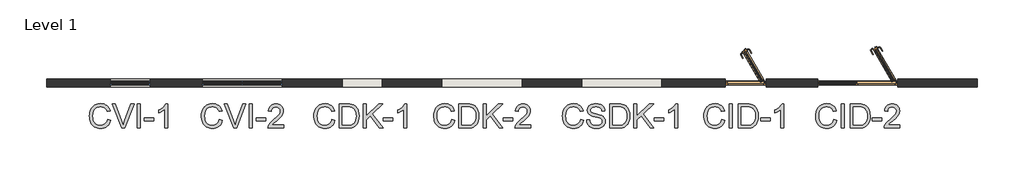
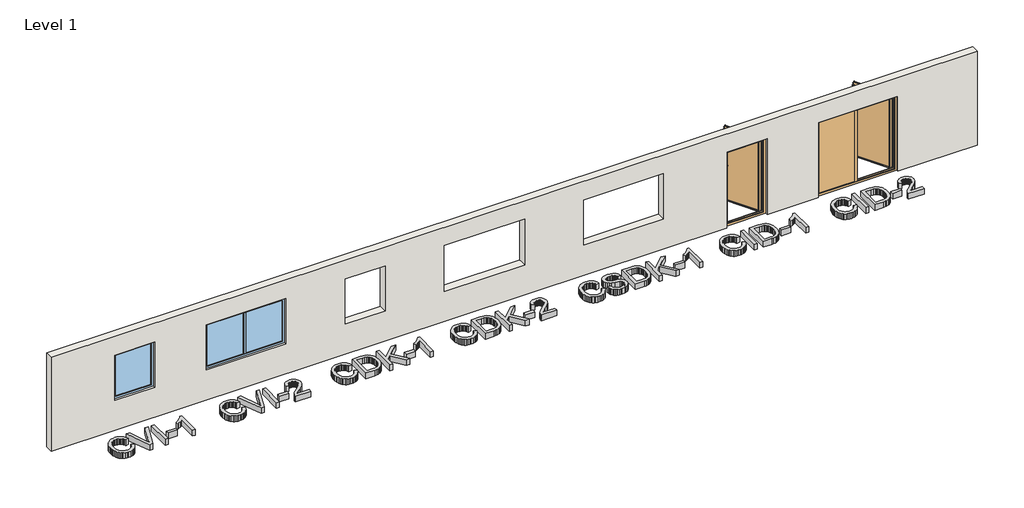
# One storey, incomplete: 7 proxies, 2 doors, 2 windows, 1 wall.
"""IFC4 building model written with IfcOpenShell, lengths in millimetres."""

from ifc_helpers import new_model, si_unit, frame, origin, origin_with_axes, place, context, project, spatial, polyline, outline, extrude, transform, mapped, element, save
from components import door_f65b9b94, door_63323bb3, window_ad6b3518, window_78f67e3e

model = new_model("IFC4")

# Units and contexts
model_context = context("Model", 3, world=origin())
ifc_project = project(units=[si_unit("LENGTHUNIT", "METRE", prefix="MILLI")], contexts=[model_context])

# Site, building, storey
site = spatial("IfcSite", under=ifc_project)
building = spatial("IfcBuilding", under=site)
storey = spatial("IfcBuildingStorey", under=building, Name="Level 1", Elevation=0.0)

# Proxies
placement = place(None, origin())
element("IfcBuildingElementProxy", 1, Name="600mm Arial", ObjectType="600mm Arial", at=placement, inside=storey, context=model_context, shape_type="SweptSolid", body=[
    extrude(outline(polyline([(-10443.6367102, -1969.3341374), (-10368.2944775, -1988.7583067), (-10383.2028954, -2035.6126773), (-10403.0593261, -2076.5533449), (-10427.8637696, -2111.5803093), (-10457.616226, -2140.6935707), (-10491.6453105, -2163.5804293), (-10529.2796386, -2179.9281855), (-10570.5192103, -2189.7368392), (-10615.3640255, -2193.0063904), (-10661.3078882, -2190.532384), (-10702.7543935, -2183.1103648), (-10739.7035413, -2170.7403327), (-10772.1553318, -2153.4222877), (-10800.5558219, -2131.4137474), (-10825.3510684, -2104.972229), (-10846.5410713, -2074.0977325), (-10864.1258306, -2038.7902581), (-10877.935201, -2000.5765158), (-10887.799037, -1960.9832161), (-10893.7173386, -1920.0103589), (-10895.6901058, -1877.6579442), (-10893.4598212, -1832.2153207), (-10886.7689674, -1789.7709355), (-10875.6175445, -1750.3247886), (-10860.0055523, -1713.8768799), (-10840.2824788, -1681.0296163), (-10816.797812, -1652.3854044), (-10789.5515517, -1627.9442444), (-10758.543698, -1607.7061361), (-10724.8273132, -1591.8366265), (-10689.4554593, -1580.5012626), (-10652.4281365, -1573.7000442), (-10613.7453447, -1571.4329714), (-10570.6525675, -1574.3668303), (-10531.1374427, -1583.168407), (-10495.1999703, -1597.8377016), (-10462.8401503, -1618.374714), (-10434.5914116, -1644.2368182), (-10410.9871831, -1674.8813884), (-10392.0274648, -1710.3084246), (-10377.7122566, -1750.5179266), (-10453.0544892, -1768.470568), (-10464.9186836, -1738.8422718), (-10479.1741109, -1713.527392), (-10495.8207712, -1692.5259286), (-10514.8586644, -1675.8378816), (-10536.3981552, -1663.1229602), (-10560.5496082, -1654.0408734), (-10587.3130234, -1648.5916213), (-10616.6884007, -1646.775204), (-10650.487559, -1648.7893579), (-10681.3988436, -1654.8318197), (-10709.4222546, -1664.9025893), (-10734.5577919, -1679.0016668), (-10756.4881574, -1696.4944556), (-10774.8960527, -1716.7463595), (-10789.7814779, -1739.7573783), (-10801.1444331, -1765.527512), (-10815.5470132, -1820.6730231), (-10820.3478732, -1877.5107914), (-10814.6640964, -1947.1140649), (-10807.5593754, -1978.3840344), (-10797.6127659, -2007.2995593), (-10784.6633197, -2033.2858237), (-10768.5500883, -2055.7680121), (-10749.2730717, -2074.7461246), (-10726.83227, -2090.220161), (-10702.3175336, -2102.2269096), (-10676.8187128, -2110.8031586), (-10650.3358077, -2115.948908), (-10622.8688182, -2117.6641578), (-10590.1135251, -2115.3281071), (-10559.9793911, -2108.3199551), (-10532.4664164, -2096.6397018), (-10507.5746009, -2080.2873471), (-10485.8925558, -2059.3364675), (-10468.0088923, -2033.8606393), (-10453.9236104, -2003.8598626), (-10443.6367102, -1969.3341374)])), origin_with_axes(), (0.0, 0.0, 1.0), 150.0),
    extrude(outline(polyline([(-10086.7911748, -2183.5886114), (-10326.5030829, -1580.8507505), (-10245.8633495, -1580.8507505), (-10085.3196469, -2015.0986576), (-10052.7988785, -2112.9552683), (-10020.7195685, -2015.0986576), (-9859.7344074, -1580.8507505), (-9779.2418269, -1580.8507505), (-10009.0944975, -2183.5886114), (-10086.7911748, -2183.5886114)])), origin_with_axes(), (0.0, 0.0, 1.0), 150.0),
    extrude(outline(polyline([(-9699.6321631, -2183.5886114), (-9699.6321631, -1580.8507505), (-9624.2899305, -1580.8507505), (-9624.2899305, -2183.5886114), (-9699.6321631, -2183.5886114)])), origin_with_axes(), (0.0, 0.0, 1.0), 150.0),
    extrude(outline(polyline([(-9520.6943607, -2004.6508089), (-9520.6943607, -1929.3085763), (-9285.2498837, -1929.3085763), (-9285.2498837, -2004.6508089), (-9520.6943607, -2004.6508089)])), origin_with_axes(), (0.0, 0.0, 1.0), 150.0),
    extrude(outline(polyline([(-8936.7920579, -2183.5886114), (-9012.1342905, -2183.5886114), (-9012.1342905, -1713.8768799), (-9043.5882011, -1739.3159199), (-9083.5033976, -1764.7181716), (-9125.4051568, -1786.9198501), (-9162.8187557, -1802.7571699), (-9162.8187557, -1731.5352157), (-9103.6449368, -1699.3455411), (-9052.3805808, -1661.0490254), (-9011.9687436, -1620.3244885), (-8985.3524813, -1580.8507505), (-8936.7920579, -1580.8507505), (-8936.7920579, -2183.5886114)])), origin_with_axes(), (0.0, 0.0, 1.0), 150.0),
])
element("IfcBuildingElementProxy", 2, Name="600mm Arial", ObjectType="600mm Arial", at=placement, inside=storey, context=model_context, shape_type="SweptSolid", body=[
    extrude(outline(polyline([(-7643.6367102, -1969.3341374), (-7568.2944775, -1988.7583067), (-7583.2028954, -2035.6126773), (-7603.0593261, -2076.5533449), (-7627.8637696, -2111.5803093), (-7657.616226, -2140.6935707), (-7691.6453105, -2163.5804293), (-7729.2796386, -2179.9281855), (-7770.5192103, -2189.7368392), (-7815.3640255, -2193.0063904), (-7861.3078882, -2190.532384), (-7902.7543935, -2183.1103648), (-7939.7035413, -2170.7403327), (-7972.1553318, -2153.4222877), (-8000.5558219, -2131.4137474), (-8025.3510684, -2104.972229), (-8046.5410713, -2074.0977325), (-8064.1258306, -2038.7902581), (-8077.935201, -2000.5765158), (-8087.799037, -1960.9832161), (-8093.7173386, -1920.0103589), (-8095.6901058, -1877.6579442), (-8093.4598212, -1832.2153207), (-8086.7689674, -1789.7709355), (-8075.6175445, -1750.3247886), (-8060.0055523, -1713.8768799), (-8040.2824788, -1681.0296163), (-8016.797812, -1652.3854044), (-7989.5515517, -1627.9442444), (-7958.543698, -1607.7061361), (-7924.8273132, -1591.8366265), (-7889.4554593, -1580.5012626), (-7852.4281365, -1573.7000442), (-7813.7453447, -1571.4329714), (-7770.6525675, -1574.3668303), (-7731.1374427, -1583.168407), (-7695.1999703, -1597.8377016), (-7662.8401503, -1618.374714), (-7634.5914116, -1644.2368182), (-7610.9871831, -1674.8813884), (-7592.0274648, -1710.3084246), (-7577.7122566, -1750.5179266), (-7653.0544892, -1768.470568), (-7664.9186836, -1738.8422718), (-7679.1741109, -1713.527392), (-7695.8207712, -1692.5259286), (-7714.8586644, -1675.8378816), (-7736.3981552, -1663.1229602), (-7760.5496082, -1654.0408734), (-7787.3130234, -1648.5916213), (-7816.6884007, -1646.775204), (-7850.487559, -1648.7893579), (-7881.3988436, -1654.8318197), (-7909.4222546, -1664.9025893), (-7934.5577919, -1679.0016668), (-7956.4881574, -1696.4944556), (-7974.8960527, -1716.7463595), (-7989.7814779, -1739.7573783), (-8001.1444331, -1765.527512), (-8015.5470132, -1820.6730231), (-8020.3478732, -1877.5107914), (-8014.6640964, -1947.1140649), (-8007.5593754, -1978.3840344), (-7997.6127659, -2007.2995593), (-7984.6633197, -2033.2858237), (-7968.5500883, -2055.7680121), (-7949.2730717, -2074.7461246), (-7926.83227, -2090.220161), (-7902.3175336, -2102.2269096), (-7876.8187128, -2110.8031586), (-7850.3358077, -2115.948908), (-7822.8688182, -2117.6641578), (-7790.1135251, -2115.3281071), (-7759.9793911, -2108.3199551), (-7732.4664164, -2096.6397018), (-7707.5746009, -2080.2873471), (-7685.8925558, -2059.3364675), (-7668.0088923, -2033.8606393), (-7653.9236104, -2003.8598626), (-7643.6367102, -1969.3341374)])), origin_with_axes(), (0.0, 0.0, 1.0), 150.0),
    extrude(outline(polyline([(-7286.7911748, -2183.5886114), (-7526.5030829, -1580.8507505), (-7445.8633495, -1580.8507505), (-7285.3196469, -2015.0986576), (-7252.7988785, -2112.9552683), (-7220.7195685, -2015.0986576), (-7059.7344074, -1580.8507505), (-6979.2418269, -1580.8507505), (-7209.0944975, -2183.5886114), (-7286.7911748, -2183.5886114)])), origin_with_axes(), (0.0, 0.0, 1.0), 150.0),
    extrude(outline(polyline([(-6899.6321631, -2183.5886114), (-6899.6321631, -1580.8507505), (-6824.2899305, -1580.8507505), (-6824.2899305, -2183.5886114), (-6899.6321631, -2183.5886114)])), origin_with_axes(), (0.0, 0.0, 1.0), 150.0),
    extrude(outline(polyline([(-6720.6943607, -2004.6508089), (-6720.6943607, -1929.3085763), (-6485.2498837, -1929.3085763), (-6485.2498837, -2004.6508089), (-6720.6943607, -2004.6508089)])), origin_with_axes(), (0.0, 0.0, 1.0), 150.0),
    extrude(outline(polyline([(-6033.1964881, -2108.2463787), (-6033.1964881, -2183.5886114), (-6428.7432093, -2183.5886114), (-6427.0877403, -2157.0643195), (-6420.6498054, -2131.6436736), (-6402.0533705, -2091.0478955), (-6374.8117088, -2051.6661279), (-6335.4299412, -2010.4449503), (-6280.4131888, -1964.3309422), (-6199.129662, -1892.1157066), (-6150.4036917, -1838.8096055), (-6136.2080452, -1817.0309914), (-6126.0682978, -1795.5466828), (-6119.9844493, -1774.3566799), (-6117.9564998, -1753.4609826), (-6119.8740847, -1733.8022885), (-6125.6268394, -1715.734684), (-6135.2147639, -1699.2581691), (-6148.6378582, -1684.3727439), (-6165.1511612, -1672.0440985), (-6184.009712, -1663.2379233), (-6205.2135105, -1657.9542181), (-6228.7625567, -1656.1929831), (-6253.5715988, -1657.9128314), (-6275.7594816, -1663.0723764), (-6295.3262052, -1671.671618), (-6312.2717696, -1683.7105563), (-6325.9799725, -1698.7845211), (-6335.8346114, -1716.4888421), (-6341.8356864, -1736.8235194), (-6343.9831976, -1759.7885529), (-6419.3254302, -1750.3707738), (-6412.8461086, -1711.4764499), (-6401.0600891, -1677.4933506), (-6383.9673719, -1648.4214759), (-6361.567957, -1624.2608259), (-6334.376879, -1605.2689179), (-6302.9091728, -1591.7032693), (-6267.1648385, -1583.5638802), (-6227.1438759, -1580.8507505), (-6186.7642284, -1583.8673828), (-6150.826756, -1592.9172799), (-6119.3314587, -1608.0004417), (-6092.2783365, -1629.1168682), (-6070.5503062, -1654.703061), (-6055.0302845, -1683.1955215), (-6045.7182715, -1714.5942498), (-6042.6142671, -1748.8992459), (-6045.9619933, -1784.9332873), (-6056.0051718, -1820.3419293), (-6073.8290544, -1856.3575766), (-6100.5188932, -1894.2126339), (-6143.0644459, -1939.4069371), (-6208.4554706, -1997.4403218), (-6295.1284686, -2069.9130748), (-6329.120765, -2108.2463787), (-6033.1964881, -2108.2463787)])), origin_with_axes(), (0.0, 0.0, 1.0), 150.0),
])
element("IfcBuildingElementProxy", 3, Name="600mm Arial", ObjectType="600mm Arial", at=placement, inside=storey, context=model_context, shape_type="SweptSolid", body=[
    extrude(outline(polyline([(-4827.2834021, -1969.3341374), (-4751.9411695, -1988.7583067), (-4766.8495874, -2035.6126773), (-4786.7060181, -2076.5533449), (-4811.5104616, -2111.5803093), (-4841.262918, -2140.6935707), (-4875.2920025, -2163.5804293), (-4912.9263306, -2179.9281855), (-4954.1659023, -2189.7368392), (-4999.0107175, -2193.0063904), (-5044.9545802, -2190.532384), (-5086.4010855, -2183.1103648), (-5123.3502333, -2170.7403327), (-5155.8020238, -2153.4222877), (-5184.2025139, -2131.4137474), (-5208.9977603, -2104.972229), (-5230.1877633, -2074.0977325), (-5247.7725226, -2038.7902581), (-5261.581893, -2000.5765158), (-5271.445729, -1960.9832161), (-5277.3640306, -1920.0103589), (-5279.3367978, -1877.6579442), (-5277.1065132, -1832.2153207), (-5270.4156594, -1789.7709355), (-5259.2642365, -1750.3247886), (-5243.6522443, -1713.8768799), (-5223.9291708, -1681.0296163), (-5200.444504, -1652.3854044), (-5173.1982437, -1627.9442444), (-5142.19039, -1607.7061361), (-5108.4740052, -1591.8366265), (-5073.1021513, -1580.5012626), (-5036.0748285, -1573.7000442), (-4997.3920367, -1571.4329714), (-4954.2992595, -1574.3668303), (-4914.7841347, -1583.168407), (-4878.8466623, -1597.8377016), (-4846.4868423, -1618.374714), (-4818.2381036, -1644.2368182), (-4794.6338751, -1674.8813884), (-4775.6741567, -1710.3084246), (-4761.3589486, -1750.5179266), (-4836.7011812, -1768.470568), (-4848.5653756, -1738.8422718), (-4862.8208029, -1713.527392), (-4879.4674632, -1692.5259286), (-4898.5053564, -1675.8378816), (-4920.0448472, -1663.1229602), (-4944.1963002, -1654.0408734), (-4970.9597154, -1648.5916213), (-5000.3350927, -1646.775204), (-5034.134251, -1648.7893579), (-5065.0455356, -1654.8318197), (-5093.0689466, -1664.9025893), (-5118.2044839, -1679.0016668), (-5140.1348494, -1696.4944556), (-5158.5427447, -1716.7463595), (-5173.4281699, -1739.7573783), (-5184.7911251, -1765.527512), (-5199.1937052, -1820.6730231), (-5203.9945652, -1877.5107914), (-5198.3107884, -1947.1140649), (-5191.2060674, -1978.3840344), (-5181.2594579, -2007.2995593), (-5168.3100117, -2033.2858237), (-5152.1967803, -2055.7680121), (-5132.9197637, -2074.7461246), (-5110.478962, -2090.220161), (-5085.9642256, -2102.2269096), (-5060.4654048, -2110.8031586), (-5033.9824997, -2115.948908), (-5006.5155102, -2117.6641578), (-4973.7602171, -2115.3281071), (-4943.6260831, -2108.3199551), (-4916.1131084, -2096.6397018), (-4891.2212929, -2080.2873471), (-4869.5392478, -2059.3364675), (-4851.6555843, -2033.8606393), (-4837.5703024, -2003.8598626), (-4827.2834021, -1969.3341374)])), origin_with_axes(), (0.0, 0.0, 1.0), 150.0),
    extrude(outline(polyline([(-4648.3455997, -2183.5886114), (-4648.3455997, -1580.8507505), (-4440.418696, -1580.8507505), (-4378.283427, -1583.0212542), (-4332.8500006, -1589.5327655), (-4284.8046121, -1606.2713963), (-4244.2640162, -1632.6485354), (-4221.924382, -1654.2064203), (-4202.5829861, -1678.5602084), (-4186.2398285, -1705.7098996), (-4172.8949091, -1735.655494), (-4162.5298339, -1768.1210801), (-4155.1262088, -1802.8307463), (-4149.2033086, -1878.9823193), (-4153.2132224, -1943.6743682), (-4165.2429636, -2000.604107), (-4183.563487, -2049.0725598), (-4206.4457471, -2088.380751), (-4232.7860979, -2119.4115973), (-4261.4808936, -2143.0480155), (-4294.4247262, -2160.5775926), (-4333.5121882, -2173.2879155), (-4378.8168559, -2181.0134374), (-4430.4123058, -2183.5886114), (-4648.3455997, -2183.5886114)]), holes=[polyline([(-4573.0033671, -2108.2463787), (-4439.682932, -2108.2463787), (-4384.537421, -2105.524052), (-4342.7092381, -2097.3570717), (-4311.1449629, -2084.2236845), (-4286.7911748, -2066.6021369), (-4260.6163709, -2033.989398), (-4240.9530782, -1991.7749391), (-4228.6474255, -1939.7748191), (-4224.5455413, -1877.805097), (-4226.5550966, -1834.0639277), (-4232.5837628, -1795.6938356), (-4242.6315398, -1762.6948207), (-4256.6984276, -1735.0668828), (-4273.643992, -1712.1846227), (-4292.3277989, -1693.422641), (-4312.7498481, -1678.7809376), (-4334.9101398, -1668.2595125), (-4378.2466388, -1659.2096154), (-4441.7430712, -1656.1929831), (-4573.0033671, -1656.1929831), (-4573.0033671, -2108.2463787)])]), origin_with_axes(), (0.0, 0.0, 1.0), 150.0),
    extrude(outline(polyline([(-4045.6077388, -2183.5886114), (-4045.6077388, -1580.8507505), (-3970.2655062, -1580.8507505), (-3970.2655062, -1875.8921106), (-3661.2446302, -1580.8507505), (-3555.8832268, -1580.8507505), (-3815.4607626, -1828.6560624), (-3546.4654477, -2183.5886114), (-3638.5830993, -2183.5886114), (-3868.8772283, -1879.5709305), (-3970.2655062, -1976.3974717), (-3970.2655062, -2183.5886114), (-4045.6077388, -2183.5886114)])), origin_with_axes(), (0.0, 0.0, 1.0), 150.0),
    extrude(outline(polyline([(-3537.0476687, -2004.6508089), (-3537.0476687, -1929.3085763), (-3301.6031918, -1929.3085763), (-3301.6031918, -2004.6508089), (-3537.0476687, -2004.6508089)])), origin_with_axes(), (0.0, 0.0, 1.0), 150.0),
    extrude(outline(polyline([(-2953.1453659, -2183.5886114), (-3028.4875985, -2183.5886114), (-3028.4875985, -1713.8768799), (-3059.9415091, -1739.3159199), (-3099.8567056, -1764.7181716), (-3141.7584648, -1786.9198501), (-3179.1720638, -1802.7571699), (-3179.1720638, -1731.5352157), (-3119.9982448, -1699.3455411), (-3068.7338888, -1661.0490254), (-3028.3220516, -1620.3244885), (-3001.7057893, -1580.8507505), (-2953.1453659, -1580.8507505), (-2953.1453659, -2183.5886114)])), origin_with_axes(), (0.0, 0.0, 1.0), 150.0),
])
element("IfcBuildingElementProxy", 4, Name="600mm Arial", ObjectType="600mm Arial", at=placement, inside=storey, context=model_context, shape_type="SweptSolid", body=[
    extrude(outline(polyline([(-1827.2834021, -1969.3341374), (-1751.9411695, -1988.7583067), (-1766.8495874, -2035.6126773), (-1786.7060181, -2076.5533449), (-1811.5104616, -2111.5803093), (-1841.262918, -2140.6935707), (-1875.2920025, -2163.5804293), (-1912.9263306, -2179.9281855), (-1954.1659023, -2189.7368392), (-1999.0107175, -2193.0063904), (-2044.9545802, -2190.532384), (-2086.4010855, -2183.1103648), (-2123.3502333, -2170.7403327), (-2155.8020238, -2153.4222877), (-2184.2025139, -2131.4137474), (-2208.9977603, -2104.972229), (-2230.1877633, -2074.0977325), (-2247.7725226, -2038.7902581), (-2261.581893, -2000.5765158), (-2271.445729, -1960.9832161), (-2277.3640306, -1920.0103589), (-2279.3367978, -1877.6579442), (-2277.1065132, -1832.2153207), (-2270.4156594, -1789.7709355), (-2259.2642365, -1750.3247886), (-2243.6522443, -1713.8768799), (-2223.9291708, -1681.0296163), (-2200.444504, -1652.3854044), (-2173.1982437, -1627.9442444), (-2142.19039, -1607.7061361), (-2108.4740052, -1591.8366265), (-2073.1021513, -1580.5012626), (-2036.0748285, -1573.7000442), (-1997.3920367, -1571.4329714), (-1954.2992595, -1574.3668303), (-1914.7841347, -1583.168407), (-1878.8466623, -1597.8377016), (-1846.4868423, -1618.374714), (-1818.2381036, -1644.2368182), (-1794.6338751, -1674.8813884), (-1775.6741567, -1710.3084246), (-1761.3589486, -1750.5179266), (-1836.7011812, -1768.470568), (-1848.5653756, -1738.8422718), (-1862.8208029, -1713.527392), (-1879.4674632, -1692.5259286), (-1898.5053564, -1675.8378816), (-1920.0448472, -1663.1229602), (-1944.1963002, -1654.0408734), (-1970.9597154, -1648.5916213), (-2000.3350927, -1646.775204), (-2034.134251, -1648.7893579), (-2065.0455356, -1654.8318197), (-2093.0689466, -1664.9025893), (-2118.2044839, -1679.0016668), (-2140.1348494, -1696.4944556), (-2158.5427447, -1716.7463595), (-2173.4281699, -1739.7573783), (-2184.7911251, -1765.527512), (-2199.1937052, -1820.6730231), (-2203.9945652, -1877.5107914), (-2198.3107884, -1947.1140649), (-2191.2060674, -1978.3840344), (-2181.2594579, -2007.2995593), (-2168.3100117, -2033.2858237), (-2152.1967803, -2055.7680121), (-2132.9197637, -2074.7461246), (-2110.478962, -2090.220161), (-2085.9642256, -2102.2269096), (-2060.4654048, -2110.8031586), (-2033.9824997, -2115.948908), (-2006.5155102, -2117.6641578), (-1973.7602171, -2115.3281071), (-1943.6260831, -2108.3199551), (-1916.1131084, -2096.6397018), (-1891.2212929, -2080.2873471), (-1869.5392478, -2059.3364675), (-1851.6555843, -2033.8606393), (-1837.5703024, -2003.8598626), (-1827.2834021, -1969.3341374)])), origin_with_axes(), (0.0, 0.0, 1.0), 150.0),
    extrude(outline(polyline([(-1648.3455997, -2183.5886114), (-1648.3455997, -1580.8507505), (-1440.418696, -1580.8507505), (-1378.283427, -1583.0212542), (-1332.8500006, -1589.5327655), (-1284.8046121, -1606.2713963), (-1244.2640162, -1632.6485354), (-1221.924382, -1654.2064203), (-1202.5829861, -1678.5602084), (-1186.2398285, -1705.7098996), (-1172.8949091, -1735.655494), (-1162.5298339, -1768.1210801), (-1155.1262088, -1802.8307463), (-1149.2033086, -1878.9823193), (-1153.2132224, -1943.6743682), (-1165.2429636, -2000.604107), (-1183.563487, -2049.0725598), (-1206.4457471, -2088.380751), (-1232.7860979, -2119.4115973), (-1261.4808936, -2143.0480155), (-1294.4247262, -2160.5775926), (-1333.5121882, -2173.2879155), (-1378.8168559, -2181.0134374), (-1430.4123058, -2183.5886114), (-1648.3455997, -2183.5886114)]), holes=[polyline([(-1573.0033671, -2108.2463787), (-1439.682932, -2108.2463787), (-1384.537421, -2105.524052), (-1342.7092381, -2097.3570717), (-1311.1449629, -2084.2236845), (-1286.7911748, -2066.6021369), (-1260.6163709, -2033.989398), (-1240.9530782, -1991.7749391), (-1228.6474255, -1939.7748191), (-1224.5455413, -1877.805097), (-1226.5550966, -1834.0639277), (-1232.5837628, -1795.6938356), (-1242.6315398, -1762.6948207), (-1256.6984276, -1735.0668828), (-1273.643992, -1712.1846227), (-1292.3277989, -1693.422641), (-1312.7498481, -1678.7809376), (-1334.9101398, -1668.2595125), (-1378.2466388, -1659.2096154), (-1441.7430712, -1656.1929831), (-1573.0033671, -1656.1929831), (-1573.0033671, -2108.2463787)])]), origin_with_axes(), (0.0, 0.0, 1.0), 150.0),
    extrude(outline(polyline([(-1045.6077388, -2183.5886114), (-1045.6077388, -1580.8507505), (-970.2655062, -1580.8507505), (-970.2655062, -1875.8921106), (-661.2446302, -1580.8507505), (-555.8832268, -1580.8507505), (-815.4607626, -1828.6560624), (-546.4654477, -2183.5886114), (-638.5830993, -2183.5886114), (-868.8772283, -1879.5709305), (-970.2655062, -1976.3974717), (-970.2655062, -2183.5886114), (-1045.6077388, -2183.5886114)])), origin_with_axes(), (0.0, 0.0, 1.0), 150.0),
    extrude(outline(polyline([(-537.0476687, -2004.6508089), (-537.0476687, -1929.3085763), (-301.6031918, -1929.3085763), (-301.6031918, -2004.6508089), (-537.0476687, -2004.6508089)])), origin_with_axes(), (0.0, 0.0, 1.0), 150.0),
    extrude(outline(polyline([(150.4502039, -2108.2463787), (150.4502039, -2183.5886114), (-245.0965173, -2183.5886114), (-243.4410483, -2157.0643195), (-237.0031134, -2131.6436736), (-218.4066785, -2091.0478955), (-191.1650168, -2051.6661279), (-151.7832492, -2010.4449503), (-96.7664968, -1964.3309422), (-15.48297, -1892.1157066), (33.2430003, -1838.8096055), (47.4386467, -1817.0309914), (57.5783942, -1795.5466828), (63.6622427, -1774.3566799), (65.6901922, -1753.4609826), (63.7726073, -1733.8022885), (58.0198526, -1715.734684), (48.4319281, -1699.2581691), (35.0088338, -1684.3727439), (18.4955308, -1672.0440985), (-0.36302, -1663.2379233), (-21.5668185, -1657.9542181), (-45.1158647, -1656.1929831), (-69.9249068, -1657.9128314), (-92.1127896, -1663.0723764), (-111.6795132, -1671.671618), (-128.6250776, -1683.7105563), (-142.3332805, -1698.7845211), (-152.1879194, -1716.4888421), (-158.1889945, -1736.8235194), (-160.3365056, -1759.7885529), (-235.6787382, -1750.3707738), (-229.1994166, -1711.4764499), (-217.4133972, -1677.4933506), (-200.32068, -1648.4214759), (-177.921265, -1624.2608259), (-150.730187, -1605.2689179), (-119.2624808, -1591.7032693), (-83.5181465, -1583.5638802), (-43.4971839, -1580.8507505), (-3.1175364, -1583.8673828), (32.819936, -1592.9172799), (64.3152333, -1608.0004417), (91.3683555, -1629.1168682), (113.0963858, -1654.703061), (128.6164075, -1683.1955215), (137.9284205, -1714.5942498), (141.0324248, -1748.8992459), (137.6846987, -1784.9332873), (127.6415202, -1820.3419293), (109.8176376, -1856.3575766), (83.1277988, -1894.2126339), (40.5822461, -1939.4069371), (-24.8087786, -1997.4403218), (-111.4817766, -2069.9130748), (-145.474073, -2108.2463787), (150.4502039, -2108.2463787)])), origin_with_axes(), (0.0, 0.0, 1.0), 150.0),
])
element("IfcBuildingElementProxy", 5, Name="600mm Arial", ObjectType="600mm Arial", at=placement, inside=storey, context=model_context, shape_type="SweptSolid", body=[
    extrude(outline(polyline([(1394.8921151, -1969.3341374), (1470.2343477, -1988.7583067), (1455.3259299, -2035.6126773), (1435.4694992, -2076.5533449), (1410.6650556, -2111.5803093), (1380.9125993, -2140.6935707), (1346.8835147, -2163.5804293), (1309.2491866, -2179.9281855), (1268.009615, -2189.7368392), (1223.1647997, -2193.0063904), (1177.2209371, -2190.532384), (1135.7744318, -2183.1103648), (1098.8252839, -2170.7403327), (1066.3734934, -2153.4222877), (1037.9730034, -2131.4137474), (1013.1777569, -2104.972229), (991.987754, -2074.0977325), (974.4029946, -2038.7902581), (960.5936242, -2000.5765158), (950.7297882, -1960.9832161), (944.8114866, -1920.0103589), (942.8387194, -1877.6579442), (945.069004, -1832.2153207), (951.7598578, -1789.7709355), (962.9112808, -1750.3247886), (978.523273, -1713.8768799), (998.2463464, -1681.0296163), (1021.7310133, -1652.3854044), (1048.9772736, -1627.9442444), (1079.9851272, -1607.7061361), (1113.7015121, -1591.8366265), (1149.0733659, -1580.5012626), (1186.1006887, -1573.7000442), (1224.7834805, -1571.4329714), (1267.8762577, -1574.3668303), (1307.3913825, -1583.168407), (1343.3288549, -1597.8377016), (1375.6886749, -1618.374714), (1403.9374137, -1644.2368182), (1427.5416422, -1674.8813884), (1446.5013605, -1710.3084246), (1460.8165686, -1750.5179266), (1385.474336, -1768.470568), (1373.6101417, -1738.8422718), (1359.3547144, -1713.527392), (1342.7080541, -1692.5259286), (1323.6701608, -1675.8378816), (1302.13067, -1663.1229602), (1277.979217, -1654.0408734), (1251.2158019, -1648.5916213), (1221.8404246, -1646.775204), (1188.0412663, -1648.7893579), (1157.1299816, -1654.8318197), (1129.1065706, -1664.9025893), (1103.9710333, -1679.0016668), (1082.0406679, -1696.4944556), (1063.6327725, -1716.7463595), (1048.7473473, -1739.7573783), (1037.3843922, -1765.527512), (1022.9818121, -1820.6730231), (1018.180952, -1877.5107914), (1023.8647289, -1947.1140649), (1030.9694499, -1978.3840344), (1040.9160593, -2007.2995593), (1053.8655056, -2033.2858237), (1069.978737, -2055.7680121), (1089.2557535, -2074.7461246), (1111.6965552, -2090.220161), (1136.2112917, -2102.2269096), (1161.7101125, -2110.8031586), (1188.1930176, -2115.948908), (1215.660007, -2117.6641578), (1248.4153002, -2115.3281071), (1278.5494341, -2108.3199551), (1306.0624088, -2096.6397018), (1330.9542243, -2080.2873471), (1352.6362694, -2059.3364675), (1370.5199329, -2033.8606393), (1384.6052148, -2003.8598626), (1394.8921151, -1969.3341374)])), origin_with_axes(), (0.0, 0.0, 1.0), 150.0),
    extrude(outline(polyline([(1545.5765803, -1976.3974717), (1620.9188129, -1976.3974717), (1629.5640398, -2018.2072604), (1645.1990246, -2051.8132807), (1669.5896009, -2078.4847253), (1704.5016022, -2099.4907873), (1747.1759137, -2113.1208152), (1794.8534203, -2117.6641578), (1836.8287559, -2114.2244612), (1873.5801672, -2103.9053712), (1903.3602147, -2087.5714106), (1924.421459, -2066.0871021), (1936.9478409, -2041.4206143), (1941.1233015, -2015.540116), (1937.9963046, -1990.3218052), (1928.6153137, -1968.524797), (1909.5590263, -1949.9283621), (1877.40614, -1934.3117714), (1767.703729, -1905.5433994), (1695.6908285, -1886.5055061), (1649.6136086, -1868.3873179), (1612.1080391, -1843.0402484), (1585.528565, -1812.3221018), (1569.6912451, -1776.8950657), (1564.4121385, -1737.4213276), (1566.0446148, -1714.9851244), (1570.9420439, -1693.2938823), (1579.1044257, -1672.3476012), (1590.5317601, -1652.1462811), (1605.0952886, -1633.5130581), (1622.6662524, -1617.271068), (1643.2446515, -1603.4203109), (1666.8304859, -1591.9607867), (1719.8422814, -1576.5649252), (1778.5194597, -1571.4329714), (1842.0894684, -1576.8040485), (1897.7132261, -1592.9172799), (1922.0486201, -1604.91943), (1943.4041699, -1619.4415718), (1961.7798756, -1636.4837052), (1977.1757371, -1656.0458303), (1989.4721927, -1677.5577299), (1998.549681, -1700.4491871), (2004.4082018, -1724.7202017), (2007.0477551, -1750.3707738), (1931.7055225, -1750.3707738), (1926.6655391, -1726.3296854), (1917.8731594, -1705.415594), (1905.3283834, -1687.6284996), (1889.031211, -1672.968402), (1868.6781396, -1661.5088779), (1843.9656666, -1653.3235035), (1814.8937919, -1648.4122789), (1781.4625156, -1646.775204), (1746.9643815, -1648.3938848), (1717.4878367, -1653.2499271), (1693.032881, -1661.343331), (1673.5995146, -1672.6740965), (1658.7922643, -1686.2949273), (1648.215657, -1701.2585275), (1641.8696926, -1717.5648969), (1639.7543711, -1735.2140356), (1641.2534902, -1750.398365), (1645.7508476, -1764.1663487), (1653.2464433, -1776.5179866), (1663.7402772, -1787.4532789), (1680.2581788, -1797.8091571), (1706.2674358, -1808.2753999), (1786.7600164, -1829.5389792), (1869.8277709, -1849.7357007), (1920.0804514, -1867.3572483), (1963.0306743, -1894.6908805), (1979.6359479, -1910.7581267), (1992.9946629, -1928.4256595), (2003.263169, -1947.6015085), (2010.5978163, -1968.1937032), (2016.4655341, -2013.6271296), (2014.7778755, -2037.1945699), (2009.7148995, -2060.0722315), (2001.2766063, -2082.2601143), (1989.4629957, -2103.7582184), (1974.4810014, -2123.7342107), (1956.5375571, -2141.3557583), (1935.6326628, -2156.6228611), (1911.7663183, -2169.5355191), (1885.6329011, -2179.8040253), (1857.9267883, -2187.1386726), (1797.7964762, -2193.0063904), (1759.2562387, -2191.4244979), (1723.9809539, -2186.6788201), (1691.9706218, -2178.7693572), (1663.2252424, -2167.6961092), (1637.5700717, -2153.4406818), (1614.8303659, -2135.9846812), (1595.0061249, -2115.3281071), (1578.0973487, -2091.4709598), (1564.4765178, -2065.1857912), (1554.5161128, -2037.2451537), (1548.2161336, -2007.6490472), (1545.5765803, -1976.3974717)])), origin_with_axes(), (0.0, 0.0, 1.0), 150.0),
    extrude(outline(polyline([(2129.4788831, -2183.5886114), (2129.4788831, -1580.8507505), (2337.4057867, -1580.8507505), (2399.5410557, -1583.0212542), (2444.9744821, -1589.5327655), (2493.0198707, -1606.2713963), (2533.5604666, -1632.6485354), (2555.9001007, -1654.2064203), (2575.2414966, -1678.5602084), (2591.5846543, -1705.7098996), (2604.9295736, -1735.655494), (2615.2946488, -1768.1210801), (2622.698274, -1802.8307463), (2628.6211741, -1878.9823193), (2624.6112604, -1943.6743682), (2612.5815191, -2000.604107), (2594.2609958, -2049.0725598), (2571.3787357, -2088.380751), (2545.0383848, -2119.4115973), (2516.3435892, -2143.0480155), (2483.3997565, -2160.5775926), (2444.3122945, -2173.2879155), (2399.0076268, -2181.0134374), (2347.412177, -2183.5886114), (2129.4788831, -2183.5886114)]), holes=[polyline([(2204.8211157, -2108.2463787), (2338.1415507, -2108.2463787), (2393.2870618, -2105.524052), (2435.1152447, -2097.3570717), (2466.6795198, -2084.2236845), (2491.0333079, -2066.6021369), (2517.2081119, -2033.989398), (2536.8714045, -1991.7749391), (2549.1770573, -1939.7748191), (2553.2789415, -1877.805097), (2551.2693861, -1834.0639277), (2545.2407199, -1795.6938356), (2535.1929429, -1762.6948207), (2521.1260551, -1735.0668828), (2504.1804907, -1712.1846227), (2485.4966839, -1693.422641), (2465.0746346, -1678.7809376), (2442.914343, -1668.2595125), (2399.5778439, -1659.2096154), (2336.0814116, -1656.1929831), (2204.8211157, -1656.1929831), (2204.8211157, -2108.2463787)])]), origin_with_axes(), (0.0, 0.0, 1.0), 150.0),
    extrude(outline(polyline([(2732.216744, -2183.5886114), (2732.216744, -1580.8507505), (2807.5589766, -1580.8507505), (2807.5589766, -1875.8921106), (3116.5798525, -1580.8507505), (3221.9412559, -1580.8507505), (2962.3637201, -1828.6560624), (3231.359035, -2183.5886114), (3139.2413834, -2183.5886114), (2908.9472544, -1879.5709305), (2807.5589766, -1976.3974717), (2807.5589766, -2183.5886114), (2732.216744, -2183.5886114)])), origin_with_axes(), (0.0, 0.0, 1.0), 150.0),
    extrude(outline(polyline([(3240.7768141, -2004.6508089), (3240.7768141, -1929.3085763), (3476.221291, -1929.3085763), (3476.221291, -2004.6508089), (3240.7768141, -2004.6508089)])), origin_with_axes(), (0.0, 0.0, 1.0), 150.0),
    extrude(outline(polyline([(3824.6791168, -2183.5886114), (3749.3368842, -2183.5886114), (3749.3368842, -1713.8768799), (3717.8829736, -1739.3159199), (3677.9677772, -1764.7181716), (3636.0660179, -1786.9198501), (3598.652419, -1802.7571699), (3598.652419, -1731.5352157), (3657.8262379, -1699.3455411), (3709.090594, -1661.0490254), (3749.5024311, -1620.3244885), (3776.1186935, -1580.8507505), (3824.6791168, -1580.8507505), (3824.6791168, -2183.5886114)])), origin_with_axes(), (0.0, 0.0, 1.0), 150.0),
])
element("IfcBuildingElementProxy", 6, Name="600mm Arial", ObjectType="600mm Arial", at=placement, inside=storey, context=model_context, shape_type="SweptSolid", body=[
    extrude(outline(polyline([(4932.8188422, -1969.3341374), (5008.1610748, -1988.7583067), (4993.2526569, -2035.6126773), (4973.3962262, -2076.5533449), (4948.5917827, -2111.5803093), (4918.8393263, -2140.6935707), (4884.8102418, -2163.5804293), (4847.1759137, -2179.9281855), (4805.936342, -2189.7368392), (4761.0915268, -2193.0063904), (4715.1476641, -2190.532384), (4673.7011588, -2183.1103648), (4636.752011, -2170.7403327), (4604.3002205, -2153.4222877), (4575.8997304, -2131.4137474), (4551.104484, -2104.972229), (4529.914481, -2074.0977325), (4512.3297217, -2038.7902581), (4498.5203513, -2000.5765158), (4488.6565153, -1960.9832161), (4482.7382137, -1920.0103589), (4480.7654465, -1877.6579442), (4482.9957311, -1832.2153207), (4489.6865849, -1789.7709355), (4500.8380078, -1750.3247886), (4516.45, -1713.8768799), (4536.1730735, -1681.0296163), (4559.6577403, -1652.3854044), (4586.9040006, -1627.9442444), (4617.9118543, -1607.7061361), (4651.6282391, -1591.8366265), (4687.000093, -1580.5012626), (4724.0274158, -1573.7000442), (4762.7102076, -1571.4329714), (4805.8029848, -1574.3668303), (4845.3181096, -1583.168407), (4881.255582, -1597.8377016), (4913.615402, -1618.374714), (4941.8641407, -1644.2368182), (4965.4683692, -1674.8813884), (4984.4280876, -1710.3084246), (4998.7432957, -1750.5179266), (4923.4010631, -1768.470568), (4911.5368687, -1738.8422718), (4897.2814414, -1713.527392), (4880.6347811, -1692.5259286), (4861.5968879, -1675.8378816), (4840.0573971, -1663.1229602), (4815.9059441, -1654.0408734), (4789.1425289, -1648.5916213), (4759.7671516, -1646.775204), (4725.9679933, -1648.7893579), (4695.0567087, -1654.8318197), (4667.0332977, -1664.9025893), (4641.8977604, -1679.0016668), (4619.9673949, -1696.4944556), (4601.5594996, -1716.7463595), (4586.6740744, -1739.7573783), (4575.3111192, -1765.527512), (4560.9085391, -1820.6730231), (4556.1076791, -1877.5107914), (4561.7914559, -1947.1140649), (4568.8961769, -1978.3840344), (4578.8427864, -2007.2995593), (4591.7922326, -2033.2858237), (4607.905464, -2055.7680121), (4627.1824806, -2074.7461246), (4649.6232823, -2090.220161), (4674.1380187, -2102.2269096), (4699.6368395, -2110.8031586), (4726.1197446, -2115.948908), (4753.5867341, -2117.6641578), (4786.3420272, -2115.3281071), (4816.4761612, -2108.3199551), (4843.9891359, -2096.6397018), (4868.8809514, -2080.2873471), (4890.5629965, -2059.3364675), (4908.44666, -2033.8606393), (4922.5319419, -2003.8598626), (4932.8188422, -1969.3341374)])), origin_with_axes(), (0.0, 0.0, 1.0), 150.0),
    extrude(outline(polyline([(5121.1744237, -2183.5886114), (5121.1744237, -1580.8507505), (5196.5166563, -1580.8507505), (5196.5166563, -2183.5886114), (5121.1744237, -2183.5886114)])), origin_with_axes(), (0.0, 0.0, 1.0), 150.0),
    extrude(outline(polyline([(5347.2011215, -2183.5886114), (5347.2011215, -1580.8507505), (5555.1280252, -1580.8507505), (5617.2632942, -1583.0212542), (5662.6967206, -1589.5327655), (5710.7421092, -1606.2713963), (5751.282705, -1632.6485354), (5773.6223392, -1654.2064203), (5792.9637351, -1678.5602084), (5809.3068927, -1705.7098996), (5822.6518121, -1735.655494), (5833.0168873, -1768.1210801), (5840.4205125, -1802.8307463), (5846.3434126, -1878.9823193), (5842.3334988, -1943.6743682), (5830.3037576, -2000.604107), (5811.9832342, -2049.0725598), (5789.1009741, -2088.380751), (5762.7606233, -2119.4115973), (5734.0658276, -2143.0480155), (5701.121995, -2160.5775926), (5662.034533, -2173.2879155), (5616.7298653, -2181.0134374), (5565.1344155, -2183.5886114), (5347.2011215, -2183.5886114)]), holes=[polyline([(5422.5433541, -2108.2463787), (5555.8637892, -2108.2463787), (5611.0093003, -2105.524052), (5652.8374831, -2097.3570717), (5684.4017583, -2084.2236845), (5708.7555464, -2066.6021369), (5734.9303503, -2033.989398), (5754.593643, -1991.7749391), (5766.8992957, -1939.7748191), (5771.00118, -1877.805097), (5768.9916246, -1834.0639277), (5762.9629584, -1795.6938356), (5752.9151814, -1762.6948207), (5738.8482936, -1735.0668828), (5721.9027292, -1712.1846227), (5703.2189224, -1693.422641), (5682.7968731, -1678.7809376), (5660.6365814, -1668.2595125), (5617.3000824, -1659.2096154), (5553.80365, -1656.1929831), (5422.5433541, -1656.1929831), (5422.5433541, -2108.2463787)])]), origin_with_axes(), (0.0, 0.0, 1.0), 150.0),
    extrude(outline(polyline([(5902.850087, -2004.6508089), (5902.850087, -1929.3085763), (6138.2945639, -1929.3085763), (6138.2945639, -2004.6508089), (5902.850087, -2004.6508089)])), origin_with_axes(), (0.0, 0.0, 1.0), 150.0),
    extrude(outline(polyline([(6486.7523898, -2183.5886114), (6411.4101572, -2183.5886114), (6411.4101572, -1713.8768799), (6379.9562466, -1739.3159199), (6340.0410501, -1764.7181716), (6298.1392909, -1786.9198501), (6260.7256919, -1802.7571699), (6260.7256919, -1731.5352157), (6319.8995109, -1699.3455411), (6371.1638669, -1661.0490254), (6411.5757041, -1620.3244885), (6438.1919664, -1580.8507505), (6486.7523898, -1580.8507505), (6486.7523898, -2183.5886114)])), origin_with_axes(), (0.0, 0.0, 1.0), 150.0),
])
element("IfcBuildingElementProxy", 7, Name="600mm Arial", ObjectType="600mm Arial", at=placement, inside=storey, context=model_context, shape_type="SweptSolid", body=[
    extrude(outline(polyline([(7732.8188422, -1969.3341374), (7808.1610748, -1988.7583067), (7793.2526569, -2035.6126773), (7773.3962262, -2076.5533449), (7748.5917827, -2111.5803093), (7718.8393263, -2140.6935707), (7684.8102418, -2163.5804293), (7647.1759137, -2179.9281855), (7605.936342, -2189.7368392), (7561.0915268, -2193.0063904), (7515.1476641, -2190.532384), (7473.7011588, -2183.1103648), (7436.752011, -2170.7403327), (7404.3002205, -2153.4222877), (7375.8997304, -2131.4137474), (7351.104484, -2104.972229), (7329.914481, -2074.0977325), (7312.3297217, -2038.7902581), (7298.5203513, -2000.5765158), (7288.6565153, -1960.9832161), (7282.7382137, -1920.0103589), (7280.7654465, -1877.6579442), (7282.9957311, -1832.2153207), (7289.6865849, -1789.7709355), (7300.8380078, -1750.3247886), (7316.45, -1713.8768799), (7336.1730735, -1681.0296163), (7359.6577403, -1652.3854044), (7386.9040006, -1627.9442444), (7417.9118543, -1607.7061361), (7451.6282391, -1591.8366265), (7487.000093, -1580.5012626), (7524.0274158, -1573.7000442), (7562.7102076, -1571.4329714), (7605.8029848, -1574.3668303), (7645.3181096, -1583.168407), (7681.255582, -1597.8377016), (7713.615402, -1618.374714), (7741.8641407, -1644.2368182), (7765.4683692, -1674.8813884), (7784.4280876, -1710.3084246), (7798.7432957, -1750.5179266), (7723.4010631, -1768.470568), (7711.5368687, -1738.8422718), (7697.2814414, -1713.527392), (7680.6347811, -1692.5259286), (7661.5968879, -1675.8378816), (7640.0573971, -1663.1229602), (7615.9059441, -1654.0408734), (7589.1425289, -1648.5916213), (7559.7671516, -1646.775204), (7525.9679933, -1648.7893579), (7495.0567087, -1654.8318197), (7467.0332977, -1664.9025893), (7441.8977604, -1679.0016668), (7419.9673949, -1696.4944556), (7401.5594996, -1716.7463595), (7386.6740744, -1739.7573783), (7375.3111192, -1765.527512), (7360.9085391, -1820.6730231), (7356.1076791, -1877.5107914), (7361.7914559, -1947.1140649), (7368.8961769, -1978.3840344), (7378.8427864, -2007.2995593), (7391.7922326, -2033.2858237), (7407.905464, -2055.7680121), (7427.1824806, -2074.7461246), (7449.6232823, -2090.220161), (7474.1380187, -2102.2269096), (7499.6368395, -2110.8031586), (7526.1197446, -2115.948908), (7553.5867341, -2117.6641578), (7586.3420272, -2115.3281071), (7616.4761612, -2108.3199551), (7643.9891359, -2096.6397018), (7668.8809514, -2080.2873471), (7690.5629965, -2059.3364675), (7708.44666, -2033.8606393), (7722.5319419, -2003.8598626), (7732.8188422, -1969.3341374)])), origin_with_axes(), (0.0, 0.0, 1.0), 150.0),
    extrude(outline(polyline([(7921.1744237, -2183.5886114), (7921.1744237, -1580.8507505), (7996.5166563, -1580.8507505), (7996.5166563, -2183.5886114), (7921.1744237, -2183.5886114)])), origin_with_axes(), (0.0, 0.0, 1.0), 150.0),
    extrude(outline(polyline([(8147.2011215, -2183.5886114), (8147.2011215, -1580.8507505), (8355.1280252, -1580.8507505), (8417.2632942, -1583.0212542), (8462.6967206, -1589.5327655), (8510.7421092, -1606.2713963), (8551.282705, -1632.6485354), (8573.6223392, -1654.2064203), (8592.9637351, -1678.5602084), (8609.3068927, -1705.7098996), (8622.6518121, -1735.655494), (8633.0168873, -1768.1210801), (8640.4205125, -1802.8307463), (8646.3434126, -1878.9823193), (8642.3334988, -1943.6743682), (8630.3037576, -2000.604107), (8611.9832342, -2049.0725598), (8589.1009741, -2088.380751), (8562.7606233, -2119.4115973), (8534.0658276, -2143.0480155), (8501.121995, -2160.5775926), (8462.034533, -2173.2879155), (8416.7298653, -2181.0134374), (8365.1344155, -2183.5886114), (8147.2011215, -2183.5886114)]), holes=[polyline([(8222.5433541, -2108.2463787), (8355.8637892, -2108.2463787), (8411.0093003, -2105.524052), (8452.8374831, -2097.3570717), (8484.4017583, -2084.2236845), (8508.7555464, -2066.6021369), (8534.9303503, -2033.989398), (8554.593643, -1991.7749391), (8566.8992957, -1939.7748191), (8571.00118, -1877.805097), (8568.9916246, -1834.0639277), (8562.9629584, -1795.6938356), (8552.9151814, -1762.6948207), (8538.8482936, -1735.0668828), (8521.9027292, -1712.1846227), (8503.2189224, -1693.422641), (8482.7968731, -1678.7809376), (8460.6365814, -1668.2595125), (8417.3000824, -1659.2096154), (8353.80365, -1656.1929831), (8222.5433541, -1656.1929831), (8222.5433541, -2108.2463787)])]), origin_with_axes(), (0.0, 0.0, 1.0), 150.0),
    extrude(outline(polyline([(8702.850087, -2004.6508089), (8702.850087, -1929.3085763), (8938.2945639, -1929.3085763), (8938.2945639, -2004.6508089), (8702.850087, -2004.6508089)])), origin_with_axes(), (0.0, 0.0, 1.0), 150.0),
    extrude(outline(polyline([(9390.3479596, -2108.2463787), (9390.3479596, -2183.5886114), (8994.8012384, -2183.5886114), (8996.4567074, -2157.0643195), (9002.8946423, -2131.6436736), (9021.4910772, -2091.0478955), (9048.7327389, -2051.6661279), (9088.1145065, -2010.4449503), (9143.1312589, -1964.3309422), (9224.4147857, -1892.1157066), (9273.140756, -1838.8096055), (9287.3364024, -1817.0309914), (9297.4761499, -1795.5466828), (9303.5599984, -1774.3566799), (9305.5879479, -1753.4609826), (9303.670363, -1733.8022885), (9297.9176083, -1715.734684), (9288.3296838, -1699.2581691), (9274.9065895, -1684.3727439), (9258.3932865, -1672.0440985), (9239.5347357, -1663.2379233), (9218.3309372, -1657.9542181), (9194.781891, -1656.1929831), (9169.9728489, -1657.9128314), (9147.7849661, -1663.0723764), (9128.2182425, -1671.671618), (9111.2726781, -1683.7105563), (9097.5644752, -1698.7845211), (9087.7098363, -1716.4888421), (9081.7087612, -1736.8235194), (9079.5612501, -1759.7885529), (9004.2190175, -1750.3707738), (9010.6983391, -1711.4764499), (9022.4843585, -1677.4933506), (9039.5770757, -1648.4214759), (9061.9764907, -1624.2608259), (9089.1675687, -1605.2689179), (9120.6352749, -1591.7032693), (9156.3796092, -1583.5638802), (9196.4005718, -1580.8507505), (9236.7802193, -1583.8673828), (9272.7176917, -1592.9172799), (9304.212989, -1608.0004417), (9331.2661112, -1629.1168682), (9352.9941415, -1654.703061), (9368.5141632, -1683.1955215), (9377.8261762, -1714.5942498), (9380.9301805, -1748.8992459), (9377.5824544, -1784.9332873), (9367.5392759, -1820.3419293), (9349.7153933, -1856.3575766), (9323.0255545, -1894.2126339), (9280.4800018, -1939.4069371), (9215.0889771, -1997.4403218), (9128.4159791, -2069.9130748), (9094.4236827, -2108.2463787), (9390.3479596, -2108.2463787)])), origin_with_axes(), (0.0, 0.0, 1.0), 150.0),
])

# Doors
door_shape = door_f65b9b94(model_context)
element("IfcDoor", 8, ObjectType="Comfort+_CID-1_Metaglas : Comfort+_CID-1_Metaglas", at=placement, inside=storey, context=model_context, shape_type="MappedRepresentation", body=[
    mapped(door_shape, transform((5529.9332251, -1049.9887759, -100.0), x_axis=(1.0, 0.0, 0.0), y_axis=(0.0, 1.0, 0.0), z_axis=(0.0, 0.0, 1.0))),
])
door_2_shape = door_63323bb3(model_context)
element("IfcDoor", 9, ObjectType="Comfort+_CID-2_Metaglas : KozijnMerk", at=placement, inside=storey, context=model_context, shape_type="MappedRepresentation", body=[
    mapped(door_2_shape, transform((8329.9332251, -1049.9887759, -800.0), x_axis=(1.0, 0.0, 0.0), y_axis=(0.0, 1.0, 0.0), z_axis=(0.0, 0.0, 1.0))),
])

# Wall
element("IfcWall", 10, ObjectType="Generic - 200mm", at=placement, inside=storey, context=model_context, shape_type="SweptSolid", body=[
    extrude(outline(polyline([(0.0, 11329.9332251), (2500.0, 11329.9332251), (2500.0, -11970.0667749), (0.0, -11970.0667749), (0.0, 5021.9332251), (2016.0, 5021.9332251), (2016.0, 6037.9332251), (0.0, 6037.9332251), (0.0, 7329.9332251), (2000.0, 7329.9332251), (2000.0, 9329.9332251), (0.0, 9329.9332251), (0.0, 11329.9332251)]), holes=[polyline([(800.0, -10370.0667749), (2000.0, -10370.0667749), (2000.0, -9370.0667749), (800.0, -9370.0667749), (800.0, -10370.0667749)]), polyline([(800.0, -8070.0667749), (2000.0, -8070.0667749), (2000.0, -6070.0667749), (800.0, -6070.0667749), (800.0, -8070.0667749)]), polyline([(800.0, -4570.0667749), (2000.0, -4570.0667749), (2000.0, -3570.0667749), (800.0, -3570.0667749), (800.0, -4570.0667749)]), polyline([(800.0, -2078.0667749), (2016.0, -2078.0667749), (2016.0, -62.0667749), (800.0, -62.0667749), (800.0, -2078.0667749)]), polyline([(800.0, 1429.9332251), (2000.0, 1429.9332251), (2000.0, 3429.9332251), (800.0, 3429.9332251), (800.0, 1429.9332251)])]), frame((0.0, -1149.9887759, 0.0), z_axis=(0.0, 1.0, 0.0), x_axis=(0.0, 0.0, 1.0)), (0.0, 0.0, 1.0), 200.0),
])

# Windows
window_shape = window_ad6b3518(model_context)
element("IfcWindow", 11, ObjectType="Comfort+_CVI-1_Metaglas : KozijnMerk", at=placement, inside=storey, context=model_context, shape_type="MappedRepresentation", body=[
    mapped(window_shape, transform((-9870.0667749, -1049.9887759, 0.0), x_axis=(1.0, 0.0, 0.0), y_axis=(0.0, 1.0, 0.0), z_axis=(0.0, 0.0, 1.0))),
])
window_2_shape = window_78f67e3e(model_context)
element("IfcWindow", 12, ObjectType="Comfort+_CVI-2_Metaglas : KozijnMerk", at=placement, inside=storey, context=model_context, shape_type="MappedRepresentation", body=[
    mapped(window_2_shape, transform((-7070.0667749, -1049.9887759, 0.0), x_axis=(1.0, 0.0, 0.0), y_axis=(0.0, 1.0, 0.0), z_axis=(0.0, 0.0, 1.0))),
])

save(model, "model.ifc")
